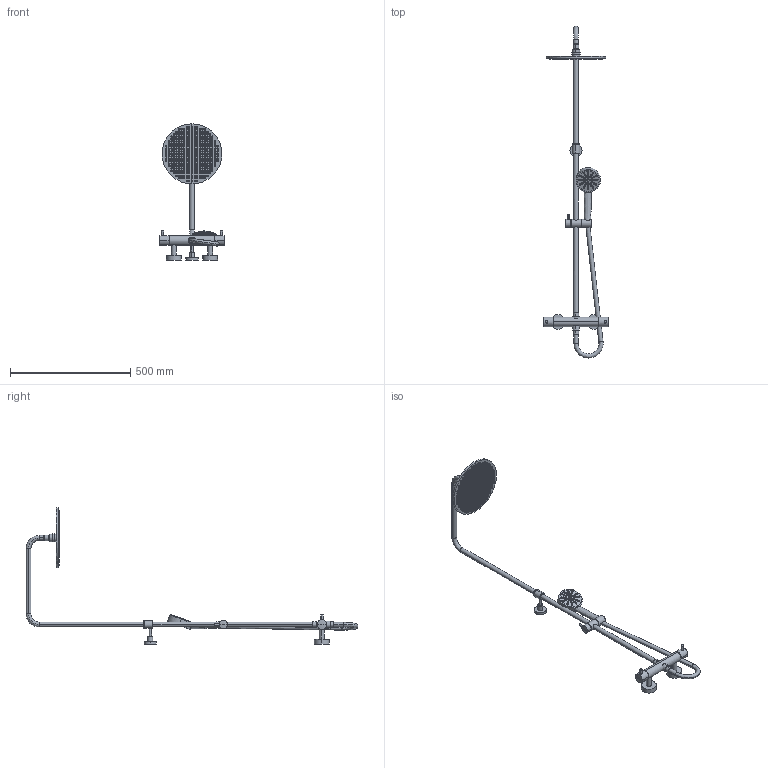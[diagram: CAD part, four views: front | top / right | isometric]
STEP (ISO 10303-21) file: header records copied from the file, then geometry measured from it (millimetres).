
FILE_DESCRIPTION(('FreeCAD Model'),'2;1');
FILE_NAME('Open CASCADE Shape Model','2024-07-25T14:18:12',('Author'),( ''),'Open CASCADE STEP processor 7.6','FreeCAD','Unknown');
FILE_SCHEMA(('AUTOMOTIVE_DESIGN { 1 0 10303 214 1 1 1 1 }'));
Length unit declared in the file: millimetre
Products named in the file (431): TopLevelAssembly; Wyciąganie001; Obrót profilu; Wyciągnięcie po ścieżce; Wyciąganie042; Wyciąganie002; Wyciąganie003; Wyciąganie004; Wyciąganie005; Wyciąganie006; Wyciąganie007; Wyciąganie008; Wyciąganie009; Wyciąganie010; Wyciąganie011; Wyciąganie012; Wyciąganie013; Wyciąganie014; Wyciąganie015; Wyciąganie016; Wyciąganie017; Wyciąganie018; Wyciąganie019; Wyciąganie020; Wyciąganie021; Wyciąganie022; Wyciąganie023; Wyciąganie024; Wyciąganie025; Wyciąganie026; Wyciąganie027; Wyciąganie028; Wyciąganie029; Wyciąganie030; Wyciąganie031; Wyciąganie032; Wyciąganie033; Wyciąganie034; Wyciąganie035; Wyciąganie036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
Assembly tree (430 placements, depth 3):
  TopLevelAssembly
    Wyciąganie001
    Obrót profilu
    Wyciągnięcie po ścieżce
    Wyciąganie042
      Wyciąganie002
      Wyciąganie003
      Wyciąganie004
      Wyciąganie005
      Wyciąganie006
      Wyciąganie007
      Wyciąganie008
      Wyciąganie009
      Wyciąganie010
      Wyciąganie011
      Wyciąganie012
      Wyciąganie013
      Wyciąganie014
      Wyciąganie015
      Wyciąganie016
      Wyciąganie017
      Wyciąganie018
      Wyciąganie019
      Wyciąganie020
      Wyciąganie021
      Wyciąganie022
      Wyciąganie023
      Wyciąganie024
      Wyciąganie025
      Wyciąganie026
      Wyciąganie027
      Wyciąganie028
      Wyciąganie029
      Wyciąganie030
      Wyciąganie031
      Wyciąganie032
      Wyciąganie033
      Wyciąganie034
      Wyciąganie035
      Wyciąganie036
      Wyciąganie037
      Wyciąganie038
      Wyciąganie039
      Wyciąganie040
      Wyciąganie041
    Połączona geometria bryłowa002
      Połączona geometria bryłowa
      Połączona geometria bryłowa001
    Połączona geometria bryłowa003
    Obrót profilu001
    Wyciąganie422
      Wyciąganie043
      Wyciąganie044
      Wyciąganie045
      Wyciąganie046
      Wyciąganie047
      Wyciąganie048
      Wyciąganie049
      Wyciąganie050
      Wyciąganie051
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Bounding box: 270.6 x 1378.32 x 566.05 mm (x, y, z)
Volume: 2069964.2 mm3; surface area: 428973.2 mm2
Topology: 427 solids, 427 shells, 1856 faces, 2887 edges, 1882 vertices
Faces by surface type: cylinder 928, plane 912, bspline 16
Entity records: 54189 total; most frequent: DIRECTION 9264, CARTESIAN_POINT 7812, ORIENTED_EDGE 5762, AXIS2_PLACEMENT_3D 4139, EDGE_CURVE 2881, VERTEX_POINT 1882, CIRCLE 1866, FACE_BOUND 1863
